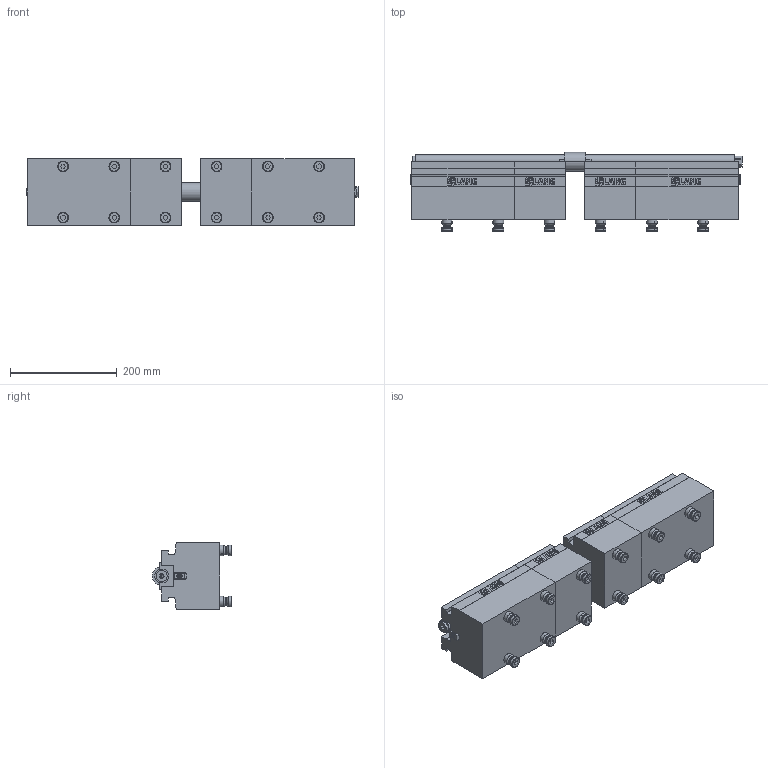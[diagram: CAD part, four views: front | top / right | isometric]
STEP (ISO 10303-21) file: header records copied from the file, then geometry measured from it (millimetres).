
FILE_DESCRIPTION (( 'STEP AP214' ), '1' );
FILE_NAME ('81615.STEP', '2020-10-28T07:16:05', ( '' ), ( '' ), 'SwSTEP 2.0', 'SolidWorks 2019', '' );
FILE_SCHEMA (( 'AUTOMOTIVE_DESIGN' ));
Length unit declared in the file: millimetre
Products named in the file (1): 81615
Bounding box: 622.5 x 148.5 x 125.6 mm (x, y, z)
Volume: 7194882.5 mm3; surface area: 544438.5 mm2
Topology: 39 solids, 39 shells, 1949 faces, 4873 edges, 3128 vertices
Faces by surface type: plane 1254, cylinder 255, cone 168, bspline 160, torus 112
Entity records: 80708 total; most frequent: CARTESIAN_POINT 12791, ORIENTED_EDGE 9674, DIRECTION 9015, EDGE_CURVE 4837, VECTOR 3607, LINE 3607, VERTEX_POINT 3128, AXIS2_PLACEMENT_3D 2704
